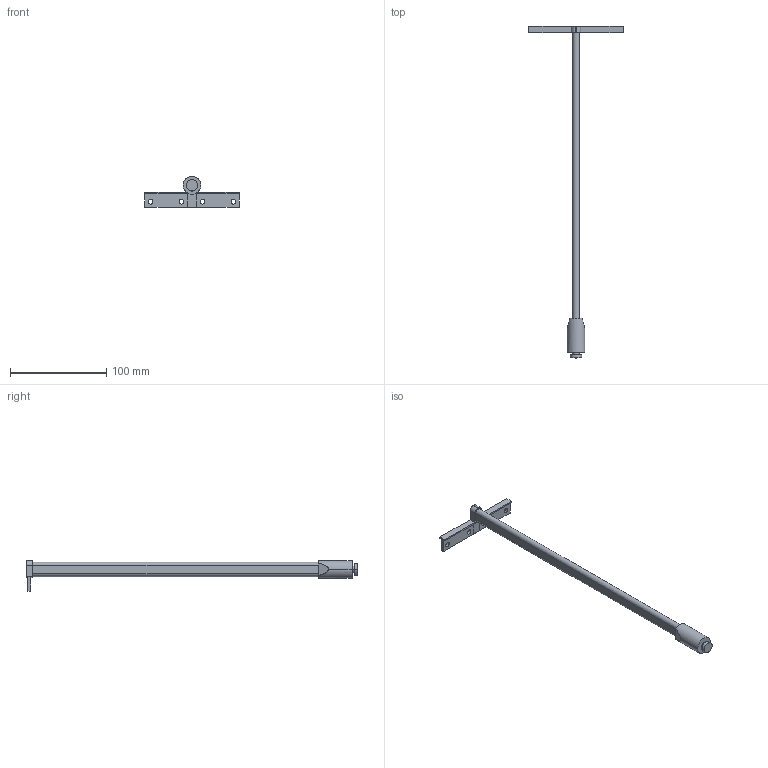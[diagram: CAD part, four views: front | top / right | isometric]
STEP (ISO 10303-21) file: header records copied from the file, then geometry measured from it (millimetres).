
FILE_DESCRIPTION (( 'STEP AP214' ), '1' );
FILE_NAME ('DWD-XP_Reling-Haengeregister_NL350_links.step', '2010-10-06T11:19:39', ( 'grass' ), ( '' ), 'SwSTEP 2.0', 'SolidWorks 2010', '' );
FILE_SCHEMA (( 'AUTOMOTIVE_DESIGN' ));
Length unit declared in the file: millimetre
Products named in the file (1): DWD-XP_Reling-Haengeregister_NL350_links
Bounding box: 97.9 x 344.3 x 32.15 mm (x, y, z)
Volume: 82301.6 mm3; surface area: 33869.5 mm2
Topology: 2 solids, 2 shells, 68 faces, 168 edges, 112 vertices
Faces by surface type: plane 40, cylinder 28
Entity records: 2087 total; most frequent: CARTESIAN_POINT 373, DIRECTION 354, ORIENTED_EDGE 336, EDGE_CURVE 168, AXIS2_PLACEMENT_3D 125, VERTEX_POINT 112, VECTOR 104, LINE 104
